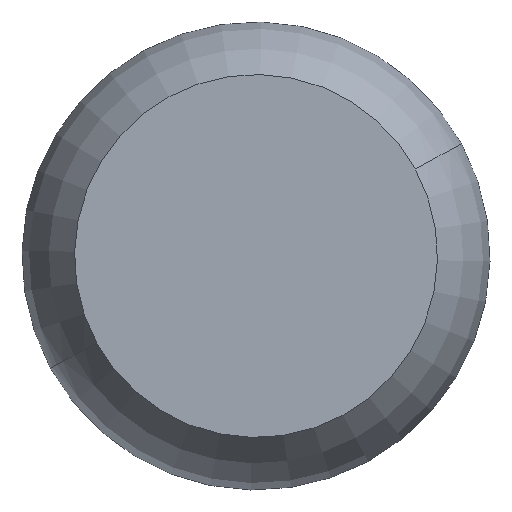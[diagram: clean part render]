
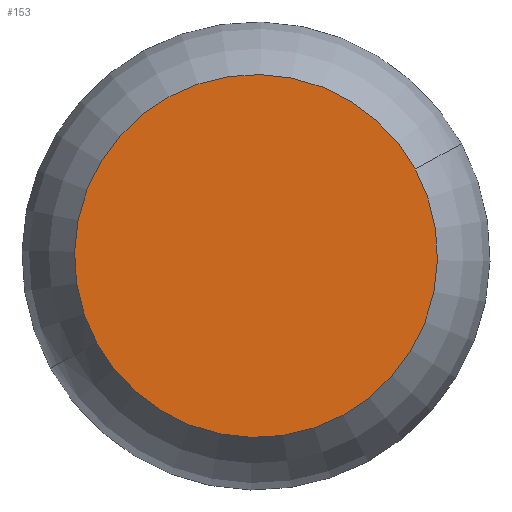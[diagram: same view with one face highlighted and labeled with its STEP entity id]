
A CAD part, front view. The second image highlights one B-rep face of the part: STEP entity #153.
In plain terms, the highlighted planar face has unit normal (0, -1, 0).
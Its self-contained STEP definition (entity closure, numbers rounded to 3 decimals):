
#66=CARTESIAN_POINT('Axis2P3D Location',(0.,0.,0.)) ;
#70=CARTESIAN_POINT('Vertex',(101.8,0.,55.613)) ;
#72=CARTESIAN_POINT('Vertex',(-101.8,0.,-55.613)) ;
#127=CARTESIAN_POINT('Axis2P3D Location',(0.,0.,0.)) ;
#144=CARTESIAN_POINT('Axis2P3D Location',(0.,0.,0.)) ;
#67=DIRECTION('Axis2P3D Direction',(0.,-1.,0.)) ;
#128=DIRECTION('Axis2P3D Direction',(0.,-1.,0.)) ;
#145=DIRECTION('Axis2P3D Direction',(0.,-1.,0.)) ;
#146=DIRECTION('Axis2P3D XDirection',(1.,0.,0.)) ;
#68=AXIS2_PLACEMENT_3D('Circle Axis2P3D',#66,#67,$) ;
#129=AXIS2_PLACEMENT_3D('Circle Axis2P3D',#127,#128,$) ;
#147=AXIS2_PLACEMENT_3D('Plane Axis2P3D',#144,#145,#146) ;
#150=ORIENTED_EDGE('',*,*,#74,.T.) ;
#151=ORIENTED_EDGE('',*,*,#131,.T.) ;
#153=ADVANCED_FACE('PartBody',(#152),#148,.T.) ;
#69=CIRCLE('generated circle',#68,116.) ;
#130=CIRCLE('generated circle',#129,116.) ;
#74=EDGE_CURVE('',#71,#73,#69,.T.) ;
#131=EDGE_CURVE('',#73,#71,#130,.T.) ;
#149=EDGE_LOOP('',(#150,#151)) ;
#152=FACE_OUTER_BOUND('',#149,.T.) ;
#148=PLANE('',#147) ;
#71=VERTEX_POINT('',#70) ;
#73=VERTEX_POINT('',#72) ;
